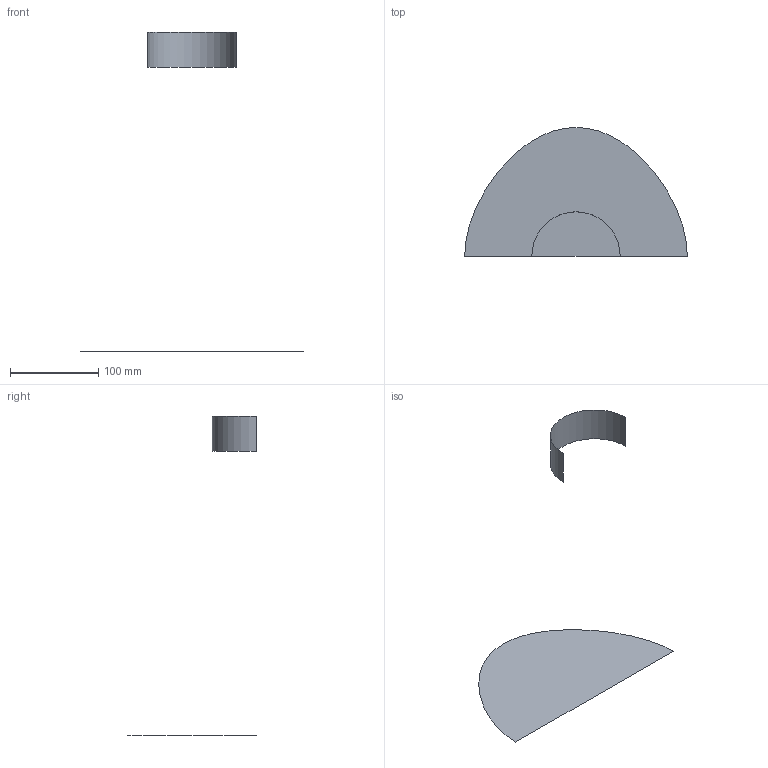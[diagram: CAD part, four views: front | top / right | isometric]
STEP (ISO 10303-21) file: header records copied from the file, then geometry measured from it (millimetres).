
FILE_DESCRIPTION(('CATIA V5 STEP Exchange'),'2;1');
FILE_NAME('C:\_Andres\UNIVERSIDAD\IQS\ASIGNATURAS\DAO\Controles\1617\c1\1original\Villarroya_Marquina_Ej00-base_v36.stp','2017-02-06T16:27:58+00:00',('none'),('none'),'CATIA Version 5-6 Release 2014 SP1 HF18','CATIA V5 STEP AP203','none');
FILE_SCHEMA(('CONFIG_CONTROL_DESIGN'));
Length unit declared in the file: millimetre
Products named in the file (1): Villarroya_Marquina_Ej00-base_v36
Bounding box: 252 x 146 x 362 mm (x, y, z)
Surface area: 33967 mm2 (no closed solid volume)
Topology: 0 solids, 2 shells, 2 faces, 16 edges, 26 vertices
Faces by surface type: cylinder 1, plane 1
Entity records: 230 total; most frequent: CARTESIAN_POINT 78, DIRECTION 16, COMPOSITE_CURVE_SEGMENT 9, TRIMMED_CURVE 9, AXIS2_PLACEMENT_3D 8, COMPOSITE_CURVE 7, ORIENTED_EDGE 7, EDGE_CURVE 7
